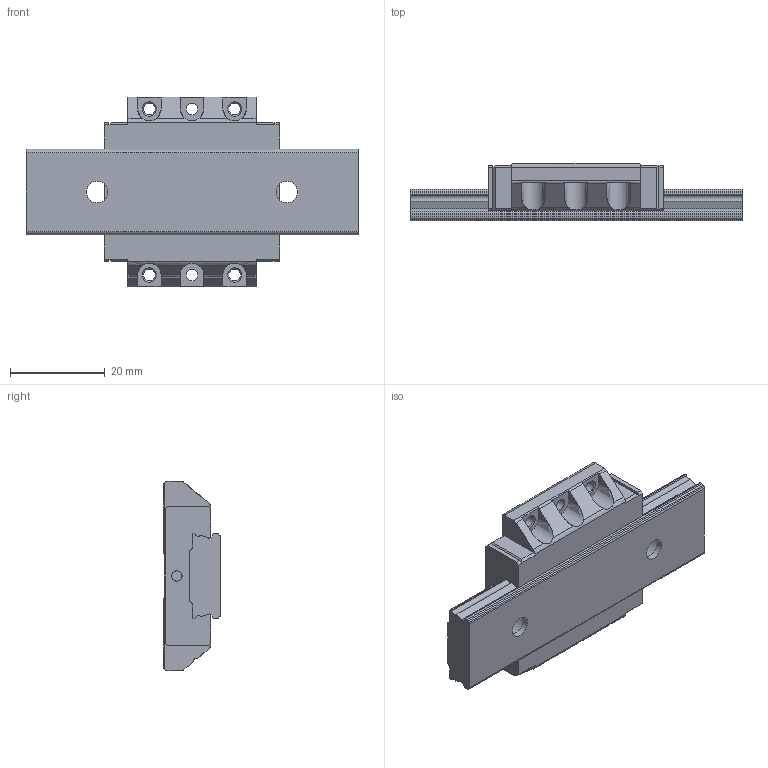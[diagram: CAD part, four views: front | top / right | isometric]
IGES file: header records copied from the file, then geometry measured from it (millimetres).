
Start section: Data from Parasolid IGES Translator 26.0.171, Copyright(c) 2006 Siemens PLM Software. All Rights Reserved.
Global section: file name: SHW12CA1SSM-70LM_G15_0_Without_grease_nipple_16-5_0_0_01.igs; native system: By Siemens PLM Incorporated; preprocessor: XPlus GENERIC/IGES 26.0.171; author: Noname; organization: Noname; date: 20240517.081742; units: millimetre
Bounding box: 70 x 12 x 40 mm (x, y, z)
Surface area: 8567.5 mm2 (no closed solid volume)
Topology: 0 solids, 0 shells, 195 faces, 1106 edges, 1080 vertices
Faces by surface type: extrusion 112, revolution 83
